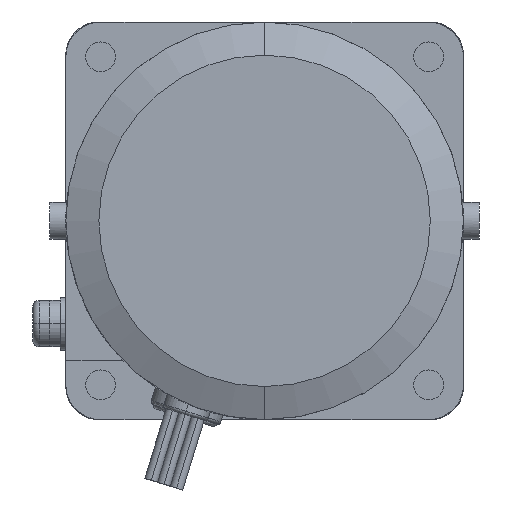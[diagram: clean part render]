
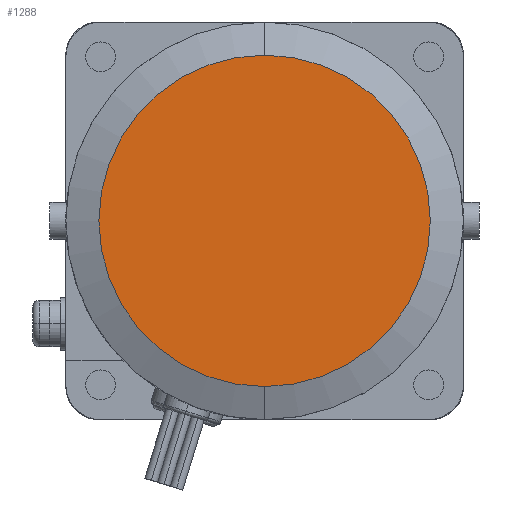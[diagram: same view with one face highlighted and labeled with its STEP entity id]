
A CAD part, left-side view. The second image highlights one B-rep face of the part: STEP entity #1288.
In plain terms, the highlighted planar face has unit normal (-1, 0, 0).
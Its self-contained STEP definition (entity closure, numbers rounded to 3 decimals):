
#1268=CARTESIAN_POINT('POINT580000',(-145.,0.,
   15.));
#1269=VERTEX_POINT('VERTEX580000',#1268);
#1270=CARTESIAN_POINT('POINT580001',(-145.,0.,
   -35.));
#1271=VERTEX_POINT('VERTEX580001',#1270);
#1272=CARTESIAN_POINT('POS955884',(-145.,0.,-10.));
#1273=DIRECTION('DIR1421047',(-1.,0.,0.));
#1274=DIRECTION('DIR1421048',(0.,0.,1.));
#1275=AXIS2_PLACEMENT_3D('AXIS465164',#1272,#1273,#1274);
#1276=CIRCLE('ELLIPSE205946',#1275,25.);
#1277=EDGE_CURVE('EDGE892431',#1269,#1271,#1276,.T.);
#1278=ORIENTED_EDGE('COEDGE1785429',*,*,#1277,.T.);
#1279=EDGE_CURVE('EDGE892432',#1271,#1269,#1276,.T.);
#1280=ORIENTED_EDGE('COEDGE1785430',*,*,#1279,.T.);
#1281=EDGE_LOOP('NONE',(#1278,#1280));
#1282=FACE_BOUND('LOOP1',#1281,.T.);
#1283=CARTESIAN_POINT('POS955885',(-145.,0.,-24.995));
#1284=DIRECTION('DIR1421049',(-1.,0.,0.));
#1285=DIRECTION('DIR1421050',(0.,1.,0.));
#1286=AXIS2_PLACEMENT_3D('AXIS465165',#1283,#1284,#1285);
#1287=PLANE('PLANE167397',#1286);
#1288=ADVANCED_FACE('FACE361485',(#1282),#1287,.T.);
